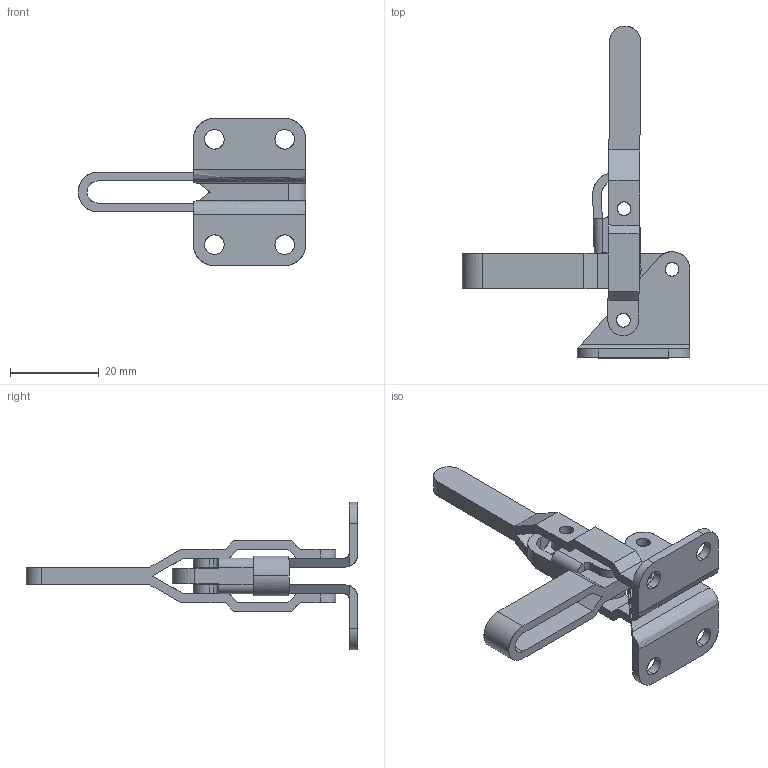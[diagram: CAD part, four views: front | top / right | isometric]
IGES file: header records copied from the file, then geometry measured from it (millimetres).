
Start section: Comment
Global section: file name: 101a.igs; native system:  By Spatial Corp.; preprocessor: XPlus PS/IGES 3.0; author: Author; organization: Title; date: 20050216.162924; units: inch
Bounding box: 51.4 x 75 x 33.3 mm (x, y, z)
Surface area: 8291.9 mm2 (no closed solid volume)
Topology: 0 solids, 0 shells, 142 faces, 788 edges, 788 vertices
Faces by surface type: extrusion 75, revolution 67
